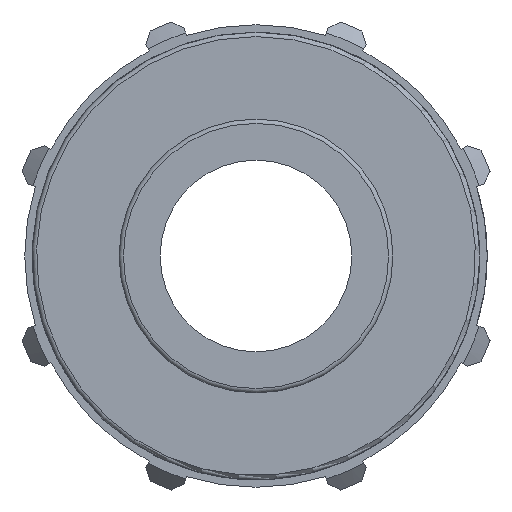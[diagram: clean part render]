
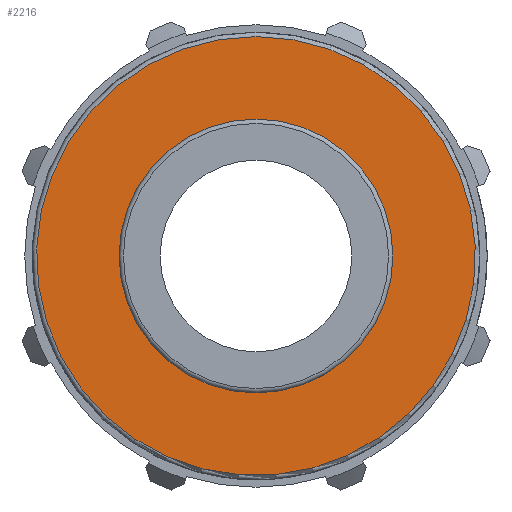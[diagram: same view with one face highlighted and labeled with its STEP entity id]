
A CAD part, left-side view. The second image highlights one B-rep face of the part: STEP entity #2216.
In plain terms, the highlighted planar face has unit normal (-1, 0, 0).
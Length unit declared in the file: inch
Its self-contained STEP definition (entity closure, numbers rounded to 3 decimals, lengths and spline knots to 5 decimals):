
#422=FACE_BOUND('',#639,.T.);
#435=PLANE('',#2401);
#514=FACE_OUTER_BOUND('',#638,.T.);
#638=EDGE_LOOP('',(#1534,#1535));
#639=EDGE_LOOP('',(#1536,#1537));
#746=CIRCLE('',#2341,0.52049);
#747=CIRCLE('',#2342,0.52049);
#784=CIRCLE('',#2399,0.83381);
#785=CIRCLE('',#2400,0.83381);
#863=VERTEX_POINT('',#3209);
#864=VERTEX_POINT('',#3210);
#930=VERTEX_POINT('',#3599);
#931=VERTEX_POINT('',#3601);
#1087=EDGE_CURVE('',#863,#864,#746,.T.);
#1088=EDGE_CURVE('',#864,#863,#747,.T.);
#1175=EDGE_CURVE('',#930,#931,#784,.T.);
#1176=EDGE_CURVE('',#931,#930,#785,.T.);
#1534=ORIENTED_EDGE('',*,*,#1176,.F.);
#1535=ORIENTED_EDGE('',*,*,#1175,.F.);
#1536=ORIENTED_EDGE('',*,*,#1087,.T.);
#1537=ORIENTED_EDGE('',*,*,#1088,.T.);
#2216=ADVANCED_FACE('',(#514,#422),#435,.T.);
#2341=AXIS2_PLACEMENT_3D('',#3211,#2589,#2590);
#2342=AXIS2_PLACEMENT_3D('',#3212,#2591,#2592);
#2399=AXIS2_PLACEMENT_3D('',#3602,#2731,#2732);
#2400=AXIS2_PLACEMENT_3D('',#3603,#2733,#2734);
#2401=AXIS2_PLACEMENT_3D('',#3604,#2735,#2736);
#2589=DIRECTION('center_axis',(1.,0.,0.));
#2590=DIRECTION('ref_axis',(0.,0.,-1.));
#2591=DIRECTION('center_axis',(1.,0.,0.));
#2592=DIRECTION('ref_axis',(0.,0.,-1.));
#2731=DIRECTION('center_axis',(1.,0.,0.));
#2732=DIRECTION('ref_axis',(0.,-0.552,0.834));
#2733=DIRECTION('center_axis',(1.,0.,0.));
#2734=DIRECTION('ref_axis',(0.,-0.552,0.834));
#2735=DIRECTION('center_axis',(-1.,0.,0.));
#2736=DIRECTION('ref_axis',(0.,0.,1.));
#3209=CARTESIAN_POINT('',(0.71,0.52049,0.));
#3210=CARTESIAN_POINT('',(0.71,-0.52049,0.));
#3211=CARTESIAN_POINT('Origin',(0.71,0.,0.));
#3212=CARTESIAN_POINT('Origin',(0.71,0.,0.));
#3599=CARTESIAN_POINT('',(0.71,0.,0.83381));
#3601=CARTESIAN_POINT('',(0.71,0.46003,-0.69542));
#3602=CARTESIAN_POINT('Origin',(0.71,0.,0.));
#3603=CARTESIAN_POINT('Origin',(0.71,0.,0.));
#3604=CARTESIAN_POINT('Origin',(0.71,0.8505,0.));
